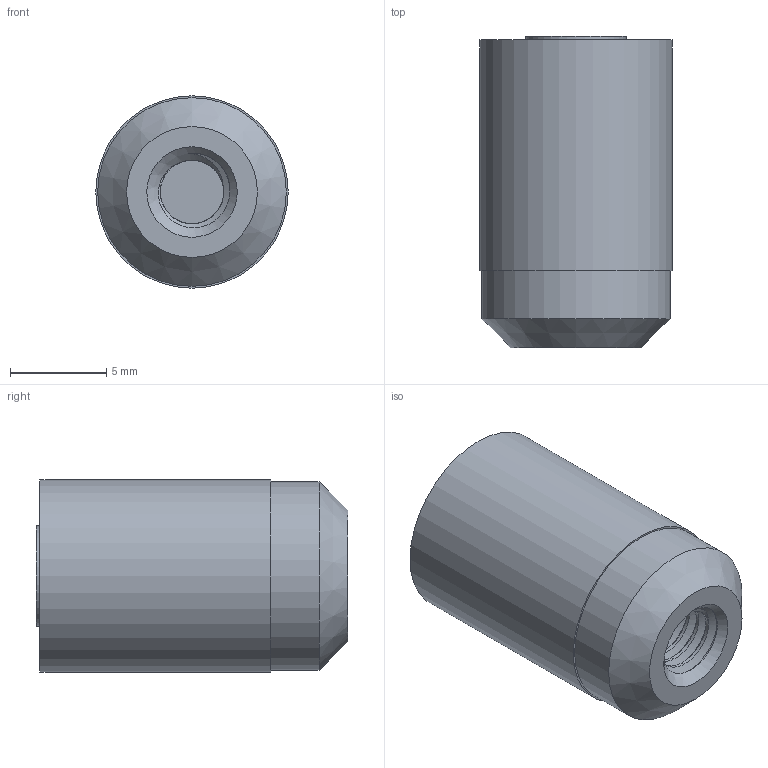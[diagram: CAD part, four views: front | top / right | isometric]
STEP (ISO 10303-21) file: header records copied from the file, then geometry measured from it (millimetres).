
FILE_DESCRIPTION (( 'STEP AP214' ), '1' );
FILE_NAME ('DKH-10.STEP', '2018-10-09T18:01:02', ( '' ), ( '' ), 'SwSTEP 2.0', 'SolidWorks 2017', '' );
FILE_SCHEMA (( 'AUTOMOTIVE_DESIGN' ));
Length unit declared in the file: millimetre
Products named in the file (1): DKH-10
Bounding box: 10 x 16.2 x 10 mm (x, y, z)
Volume: 1174.1 mm3; surface area: 697.1 mm2
Topology: 1 solids, 1 shells, 85 faces, 220 edges, 147 vertices
Faces by surface type: plane 44, cylinder 36, bspline 3, cone 2
Full cylindrical faces by diameter (mm): 3.3 x3, 5.2 x1, 9.8 x1, 10 x1
Entity records: 3380 total; most frequent: CARTESIAN_POINT 1419, ORIENTED_EDGE 402, DIRECTION 306, EDGE_CURVE 201, VERTEX_POINT 137, VECTOR 126, LINE 126, EDGE_LOOP 98
